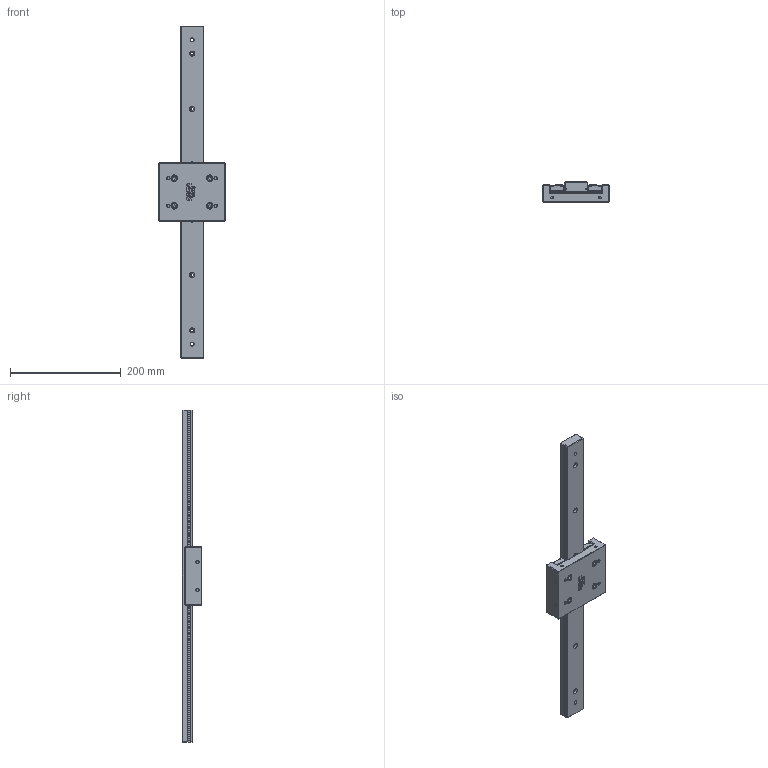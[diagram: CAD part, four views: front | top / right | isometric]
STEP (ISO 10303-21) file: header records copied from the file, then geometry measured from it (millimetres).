
FILE_DESCRIPTION(/* description */ ('TAVOLA TRKD06 L= 600 mm'),/* implementation_level */ '2;1');
FILE_NAME(/* name */ 'TRKD060600-00.stp',/* time_stamp */ '2024-01-25T10:37:07+01:00',/* author */ ('Rosa Sistemi'),/* organization */ (''),/* preprocessor_version */ 'ST-DEVELOPER v20',/* originating_system */ 'Autodesk Inventor 2024',/* authorisation */ '');
FILE_SCHEMA (('AUTOMOTIVE_DESIGN { 1 0 10303 214 3 1 1 }'));
Length unit declared in the file: millimetre
Products named in the file (2): TRKD060600-00; TRKD060600-00_1
Assembly tree (1 placements, depth 2):
  TRKD060600-00
    TRKD060600-00_1
Bounding box: 120 x 36 x 600 mm (x, y, z)
Volume: 752710.8 mm3; surface area: 146459.7 mm2
Topology: 13 solids, 13 shells, 683 faces, 1759 edges, 1131 vertices
Faces by surface type: plane 418, cylinder 91, cone 88, bspline 36, sphere 26, torus 24
Full cylindrical faces by diameter (mm): 2 x2, 2.795 x1, 4.134 x4, 4.917 x18, 6 x15, 7 x3, 7.687 x1, 9.5 x6, 9.9 x4, 10 x4, 11 x4
Entity records: 21721 total; most frequent: CARTESIAN_POINT 4578, ORIENTED_EDGE 3390, DIRECTION 3294, EDGE_CURVE 1695, VERTEX_POINT 1131, AXIS2_PLACEMENT_3D 1131, LINE 1032, VECTOR 1032
